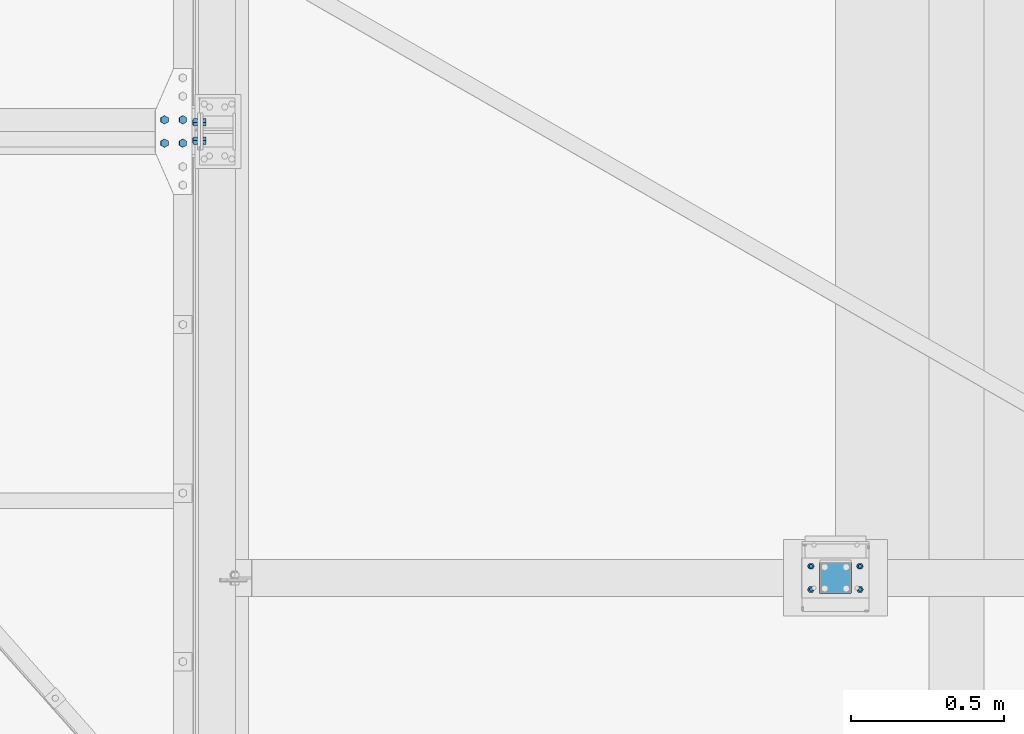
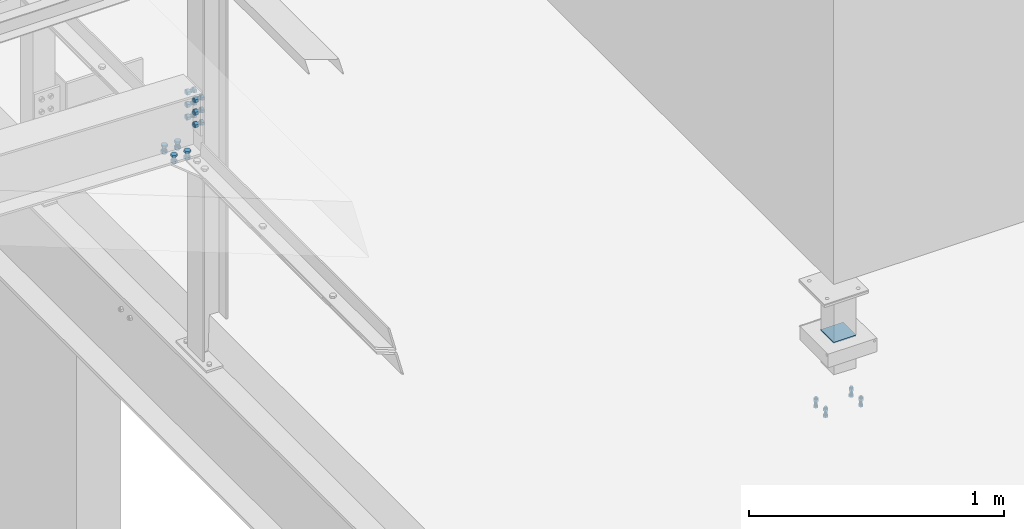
# One storey, part 361 of 3134: 4 mechanical fasteners, 4 elements without a shape of their own.
"""IFC2X3 building model written with IfcOpenShell, lengths in millimetres."""

from ifc_helpers import new_model, si_unit, frame, origin_with_axes, place, context, subcontext, project, spatial, faceted_brep, source, transform, mapped, material, type_object, element, aggregate, save


model = new_model("IFC2X3")

# Units and contexts
model_context = context("Model", 3, precision=1e-05, world=origin_with_axes())
body_context = subcontext(model_context, "Body", "Model", "MODEL_VIEW")
ifc_project = project(units=[si_unit("LENGTHUNIT", "METRE", prefix="MILLI"), si_unit("AREAUNIT", "SQUARE_METRE"), si_unit("VOLUMEUNIT", "CUBIC_METRE"), si_unit("MASSUNIT", "GRAM", prefix="KILO"), si_unit("TIMEUNIT", "SECOND"), si_unit("PLANEANGLEUNIT", "RADIAN"), si_unit("SOLIDANGLEUNIT", "STERADIAN"), si_unit("THERMODYNAMICTEMPERATUREUNIT", "DEGREE_CELSIUS"), si_unit("LUMINOUSINTENSITYUNIT", "LUMEN")], contexts=[model_context])

# Site, building, storey
site_placement = place(None, origin_with_axes())
site = spatial("IfcSite", under=ifc_project, at=site_placement, CompositionType="ELEMENT")
building_placement = place(site_placement, origin_with_axes())
building = spatial("IfcBuilding", under=site, at=building_placement, Name="Undefined", CompositionType="ELEMENT")
storey_placement = place(building_placement, origin_with_axes())
storey = spatial("IfcBuildingStorey", under=building, at=storey_placement, Name="Undefined", CompositionType="ELEMENT", Elevation=0.0)

# Assembly, mechanical fastener
assembly_1_placement = place(storey_placement, origin_with_axes())
assembly_1 = element("IfcElementAssembly", 1, at=assembly_1_placement, inside=storey, Name="PL8", AssemblyPlace="NOTDEFINED", PredefinedType="RIGID_FRAME")
ifc_material_1 = material(Name="8.8")
mechanical_fastener_type = type_object("IfcMechanicalFastenerType", Name="Bolt assembly")
shared_shape_1 = source(origin_with_axes(), body_context, "Body", "Brep", [
    faceted_brep([(13.856406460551, -23.1999997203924, 0.0), (6.92820323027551, -23.1999997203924, 12.0), (-6.92820323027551, -23.1999997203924, 12.0), (-13.856406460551, -23.1999997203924, 1.69692038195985e-15), (-6.92820323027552, -23.1999997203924, -12.0), (6.9282032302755, -23.1999997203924, -12.0), (6.9282032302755, -13.1999997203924, -12.0), (-6.92820323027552, -13.1999997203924, -12.0), (-13.856406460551, -13.1999997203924, 1.69692038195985e-15), (-6.92820323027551, -13.1999997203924, 12.0), (6.92820323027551, -13.1999997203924, 12.0), (13.856406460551, -13.1999997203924, 0.0), (8.0, -13.1999997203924, 0.0), (6.92820323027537, -13.1999997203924, 4.00000000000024), (3.99999999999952, -13.1999997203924, 6.92820323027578), (-8.29068785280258e-13, -13.1999997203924, 8.0), (-4.00000000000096, -13.1999997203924, 6.92820323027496), (-6.9282032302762, -13.1999997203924, 3.99999999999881), (-8.0, -13.1999997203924, -1.65813757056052e-12), (-6.92820323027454, -13.1999997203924, -4.00000000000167), (-3.99999999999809, -13.1999997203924, -6.92820323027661), (2.47832457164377e-12, -13.1999997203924, -8.0), (4.00000000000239, -13.1999997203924, -6.92820323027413), (6.92820323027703, -13.1999997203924, -3.99999999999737), (6.92820323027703, 21.8000002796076, -3.99999999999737), (4.00000000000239, 21.8000002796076, -6.92820323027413), (2.47832457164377e-12, 21.8000002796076, -8.0), (-3.99999999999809, 21.8000002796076, -6.92820323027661), (-6.92820323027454, 21.8000002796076, -4.00000000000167), (-8.0, 21.8000002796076, -1.65813757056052e-12), (-6.9282032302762, 21.8000002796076, 3.99999999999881), (-4.00000000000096, 21.8000002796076, 6.92820323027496), (-8.29068785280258e-13, 21.8000002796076, 8.0), (3.99999999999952, 21.8000002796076, 6.92820323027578), (6.92820323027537, 21.8000002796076, 4.00000000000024), (8.0, 21.8000002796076, 0.0), (13.856406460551, 3.99999999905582, 0.0), (6.92820323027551, 3.99999999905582, 12.0), (-6.92820323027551, 3.99999999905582, 12.0), (-13.856406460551, 3.99999999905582, 1.69692038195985e-15), (-6.92820323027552, 3.99999999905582, -12.0), (6.9282032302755, 3.99999999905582, -12.0), (6.9282032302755, 16.9999999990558, -12.0), (-6.92820323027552, 16.9999999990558, -12.0), (-13.856406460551, 16.9999999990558, 1.69692038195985e-15), (-6.92820323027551, 16.9999999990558, 12.0), (6.92820323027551, 16.9999999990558, 12.0), (13.856406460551, 16.9999999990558, 0.0)], [[[0, 1, 2, 3, 4, 5]], [[6, 7, 8, 9, 10, 11]], [[0, 11, 10, 1]], [[1, 10, 9, 2]], [[2, 9, 8, 3]], [[3, 8, 7, 4]], [[4, 7, 6, 5]], [[5, 6, 11, 0]], [[12, 13, 14, 15, 16, 17, 18, 19, 20, 21, 22, 23]], [[24, 25, 26, 27, 28, 29, 30, 31, 32, 33, 34, 35]], [[12, 35, 34, 13]], [[13, 34, 33, 14]], [[14, 33, 32, 15]], [[15, 32, 31, 16]], [[16, 31, 30, 17]], [[17, 30, 29, 18]], [[18, 29, 28, 19]], [[19, 28, 27, 20]], [[20, 27, 26, 21]], [[21, 26, 25, 22]], [[22, 25, 24, 23]], [[23, 24, 35, 12]], [[36, 37, 38, 39, 40, 41]], [[42, 43, 44, 45, 46, 47]], [[36, 47, 46, 37]], [[37, 46, 45, 38]], [[38, 45, 44, 39]], [[39, 44, 43, 40]], [[40, 43, 42, 41]], [[41, 42, 47, 36]]]),
    faceted_brep([(9.0, -13.0999997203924, 0.0), (7.79422863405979, -13.0999997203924, 4.50000000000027), (4.49999999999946, -13.0999997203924, 7.79422863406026), (-9.3270238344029e-13, -13.0999997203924, 9.0), (-4.50000000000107, -13.0999997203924, 7.79422863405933), (-7.79422863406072, -13.0999997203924, 4.49999999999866), (-9.0, -13.0999997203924, -1.86540476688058e-12), (-7.79422863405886, -13.0999997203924, -4.50000000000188), (-4.49999999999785, -13.0999997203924, -7.79422863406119), (2.78811514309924e-12, -13.0999997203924, -9.0), (4.50000000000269, -13.0999997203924, -7.7942286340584), (7.79422863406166, -13.0999997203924, -4.49999999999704), (7.79422863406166, -3.9, -4.49999999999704), (4.50000000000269, -3.9, -7.7942286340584), (2.78811514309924e-12, -3.9, -9.0), (-4.49999999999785, -3.9, -7.79422863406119), (-7.79422863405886, -3.9, -4.50000000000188), (-9.0, -3.9, -1.86540476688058e-12), (-7.79422863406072, -3.9, 4.49999999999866), (-4.50000000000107, -3.9, 7.79422863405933), (-9.3270238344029e-13, -3.9, 9.0), (4.49999999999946, -3.9, 7.79422863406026), (7.79422863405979, -3.9, 4.50000000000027), (9.0, -3.9, 0.0), (9.0, -4.10000000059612, 0.0), (7.79422863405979, -4.10000000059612, 4.50000000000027), (4.49999999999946, -4.10000000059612, 7.79422863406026), (-9.3270238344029e-13, -4.10000000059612, 9.0), (-4.50000000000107, -4.10000000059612, 7.79422863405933), (-7.79422863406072, -4.10000000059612, 4.49999999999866), (-9.0, -4.10000000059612, -1.86540476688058e-12), (-7.79422863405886, -4.10000000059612, -4.50000000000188), (-4.49999999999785, -4.10000000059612, -7.79422863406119), (2.78811514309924e-12, -4.10000000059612, -9.0), (4.50000000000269, -4.10000000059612, -7.7942286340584), (7.79422863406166, -4.10000000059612, -4.49999999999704), (7.79422863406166, 4.00000375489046, -4.49999999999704), (4.50000000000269, 4.00000375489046, -7.7942286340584), (2.78811514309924e-12, 4.00000375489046, -9.0), (-4.49999999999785, 4.00000375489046, -7.79422863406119), (-7.79422863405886, 4.00000375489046, -4.50000000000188), (-9.0, 4.00000375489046, -1.86540476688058e-12), (-7.79422863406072, 4.00000375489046, 4.49999999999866), (-4.50000000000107, 4.00000375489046, 7.79422863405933), (-9.3270238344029e-13, 4.00000375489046, 9.0), (4.49999999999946, 4.00000375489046, 7.79422863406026), (7.79422863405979, 4.00000375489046, 4.50000000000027), (9.0, 4.00000375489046, 0.0)], [[[0, 1, 2, 3, 4, 5, 6, 7, 8, 9, 10, 11]], [[12, 13, 14, 15, 16, 17, 18, 19, 20, 21, 22, 23]], [[0, 23, 22, 1]], [[1, 22, 21, 2]], [[2, 21, 20, 3]], [[3, 20, 19, 4]], [[4, 19, 18, 5]], [[5, 18, 17, 6]], [[6, 17, 16, 7]], [[7, 16, 15, 8]], [[8, 15, 14, 9]], [[9, 14, 13, 10]], [[10, 13, 12, 11]], [[11, 12, 23, 0]], [[24, 25, 26, 27, 28, 29, 30, 31, 32, 33, 34, 35]], [[36, 37, 38, 39, 40, 41, 42, 43, 44, 45, 46, 47]], [[24, 47, 46, 25]], [[25, 46, 45, 26]], [[26, 45, 44, 27]], [[27, 44, 43, 28]], [[28, 43, 42, 29]], [[29, 42, 41, 30]], [[30, 41, 40, 31]], [[31, 40, 39, 32]], [[32, 39, 38, 33]], [[33, 38, 37, 34]], [[34, 37, 36, 35]], [[35, 36, 47, 24]]]),
])
mechanical_fastener_1_placement = place(assembly_1_placement, frame((71670.069621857, 17051.9999999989, 5011.13330296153), z_axis=(-0.999519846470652, 0.0, 0.0309851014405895), x_axis=(0.0, 1.0, 0.0)))
mechanical_fastener_1 = element("IfcMechanicalFastener", 2, at=mechanical_fastener_1_placement, type_object=mechanical_fastener_type, material=ifc_material_1, Name="Bolt assembly", NominalDiameter=16.0, NominalLength=35.0, context=body_context, shape_type="MappedRepresentation", body=[
    mapped(shared_shape_1, transform((0.0, 4.54747350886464e-13, -30.0000000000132))),
    mapped(shared_shape_1, transform((76.0, -2.00088834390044e-10, -29.9999999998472))),
    mapped(shared_shape_1, transform((0.0, 4.54747350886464e-13, 30.0000000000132))),
    mapped(shared_shape_1, transform((76.0, 1.98269844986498e-10, 29.9999999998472))),
])
aggregate(assembly_1, [mechanical_fastener_1])

assembly_2_placement = place(storey_placement, origin_with_axes())
assembly_2 = element("IfcElementAssembly", 3, at=assembly_2_placement, inside=storey, AssemblyPlace="NOTDEFINED", PredefinedType="RIGID_FRAME")
ifc_material_2 = material(Name="6.8")
shared_shape_2 = source(origin_with_axes(), body_context, "Body", "Brep", [
    faceted_brep([(51.5, 1.36424205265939e-12, 50.0), (51.3858192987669, 1.36424205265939e-12, 50.5740251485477), (51.0606601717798, 1.36424205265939e-12, 51.0606601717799), (50.5740251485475, 1.36424205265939e-12, 51.385819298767), (-50.0000000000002, 1.36424205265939e-12, 51.5), (-50.7500000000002, 1.36424205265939e-12, 51.2990381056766), (-51.2990381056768, 1.36424205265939e-12, 50.7499999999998), (-51.5, 1.36424205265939e-12, 49.9999999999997), (-51.5, 1.36424205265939e-12, -50.0000000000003), (-51.2990381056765, 1.36424205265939e-12, -50.7500000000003), (-50.7499999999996, 1.36424205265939e-12, -51.2990381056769), (-49.9999999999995, 1.36424205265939e-12, -51.5), (50.0000000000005, 1.36424205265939e-12, -51.5), (50.7500000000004, 1.36424205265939e-12, -51.2990381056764), (51.2990381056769, 1.36424205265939e-12, -50.7499999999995), (51.5, 1.36424205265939e-12, -49.9999999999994), (51.5, 5.10000000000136, -49.9999999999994), (51.2990381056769, 5.10000000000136, -50.7499999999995), (50.7500000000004, 5.10000000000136, -51.2990381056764), (50.0000000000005, 5.10000000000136, -51.5), (-49.9999999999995, 5.10000000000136, -51.5), (-50.7499999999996, 5.10000000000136, -51.2990381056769), (-51.2990381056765, 5.10000000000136, -50.7500000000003), (-51.5, 5.10000000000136, -50.0000000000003), (-51.5, 5.10000000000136, 49.9999999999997), (-51.2990381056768, 5.10000000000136, 50.7499999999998), (-50.7500000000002, 5.10000000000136, 51.2990381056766), (-50.0000000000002, 5.10000000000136, 51.5), (50.5740251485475, 5.10000000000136, 51.385819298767), (51.0606601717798, 5.10000000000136, 51.0606601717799), (51.3858192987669, 5.10000000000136, 50.5740251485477), (51.5, 5.10000000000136, 50.0)], [[[0, 1, 2, 3, 4, 5, 6, 7, 8, 9, 10, 11, 12, 13, 14, 15]], [[16, 17, 18, 19, 20, 21, 22, 23, 24, 25, 26, 27, 28, 29, 30, 31]], [[0, 31, 30, 1]], [[1, 30, 29, 2]], [[2, 29, 28, 3]], [[3, 28, 27, 4]], [[4, 27, 26, 5]], [[5, 26, 25, 6]], [[6, 25, 24, 7]], [[7, 24, 23, 8]], [[8, 23, 22, 9]], [[9, 22, 21, 10]], [[10, 21, 20, 11]], [[11, 20, 19, 12]], [[12, 19, 18, 13]], [[13, 18, 17, 14]], [[14, 17, 16, 15]], [[15, 16, 31, 0]]]),
])
mechanical_fastener_2_placement = place(assembly_2_placement, frame((73830.0, 15633.33, 4274.22), z_axis=(0.0, -1.0, 0.0), x_axis=(-1.0, 0.0, 0.0)))
mechanical_fastener_2 = element("IfcMechanicalFastener", 4, at=mechanical_fastener_2_placement, type_object=mechanical_fastener_type, material=ifc_material_2, Name="Bolt assembly", NominalDiameter=10.0, NominalLength=5.0, context=body_context, shape_type="MappedRepresentation", body=[
    mapped(shared_shape_2, transform((0.0, 0.0, 0.0))),
])
aggregate(assembly_2, [mechanical_fastener_2])

assembly_3_placement = place(storey_placement, origin_with_axes())
assembly_3 = element("IfcElementAssembly", 5, at=assembly_3_placement, inside=storey, Name="HEA120", AssemblyPlace="NOTDEFINED", PredefinedType="RIGID_FRAME")
shared_shape_3 = source(origin_with_axes(), body_context, "Body", "Brep", [
    faceted_brep([(13.856406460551, -18.0, 0.0), (6.92820323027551, -18.0, 12.0), (-6.92820323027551, -18.0, 12.0), (-13.856406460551, -18.0, 1.69692038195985e-15), (-6.92820323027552, -18.0, -12.0), (6.9282032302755, -18.0, -12.0), (6.9282032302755, -7.99999766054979, -12.0), (-6.92820323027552, -7.99999766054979, -12.0), (-13.856406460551, -7.99999766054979, 1.69692038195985e-15), (-6.92820323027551, -7.99999766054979, 12.0), (6.92820323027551, -7.99999766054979, 12.0), (13.856406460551, -7.99999766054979, 0.0), (8.0, -8.0, 0.0), (6.92820323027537, -8.0, 4.00000000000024), (3.99999999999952, -8.0, 6.92820323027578), (-8.29068785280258e-13, -8.0, 8.0), (-4.00000000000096, -8.0, 6.92820323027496), (-6.9282032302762, -8.0, 3.99999999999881), (-8.0, -8.0, -1.65813757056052e-12), (-6.92820323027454, -8.0, -4.00000000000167), (-3.99999999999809, -8.0, -6.92820323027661), (2.47832457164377e-12, -8.0, -8.0), (4.00000000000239, -8.0, -6.92820323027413), (6.92820323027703, -8.0, -3.99999999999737), (6.92820323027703, 27.0, -3.99999999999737), (4.00000000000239, 27.0, -6.92820323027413), (2.47832457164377e-12, 27.0, -8.0), (-3.99999999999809, 27.0, -6.92820323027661), (-6.92820323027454, 27.0, -4.00000000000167), (-8.0, 27.0, -1.65813757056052e-12), (-6.9282032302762, 27.0, 3.99999999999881), (-4.00000000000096, 27.0, 6.92820323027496), (-8.29068785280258e-13, 27.0, 8.0), (3.99999999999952, 27.0, 6.92820323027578), (6.92820323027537, 27.0, 4.00000000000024), (8.0, 27.0, 0.0), (13.856406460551, 9.99999995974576, 0.0), (6.92820323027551, 9.99999995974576, 12.0), (-6.92820323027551, 9.99999995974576, 12.0), (-13.856406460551, 9.99999995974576, 1.69692038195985e-15), (-6.92820323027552, 9.99999995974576, -12.0), (6.9282032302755, 9.99999995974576, -12.0), (6.9282032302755, 22.9999913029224, -12.0), (-6.92820323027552, 22.9999913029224, -12.0), (-13.856406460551, 22.9999913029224, 1.69692038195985e-15), (-6.92820323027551, 22.9999913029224, 12.0), (6.92820323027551, 22.9999913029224, 12.0), (13.856406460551, 22.9999913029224, 0.0)], [[[0, 1, 2, 3, 4, 5]], [[6, 7, 8, 9, 10, 11]], [[0, 11, 10, 1]], [[1, 10, 9, 2]], [[2, 9, 8, 3]], [[3, 8, 7, 4]], [[4, 7, 6, 5]], [[5, 6, 11, 0]], [[12, 13, 14, 15, 16, 17, 18, 19, 20, 21, 22, 23]], [[24, 25, 26, 27, 28, 29, 30, 31, 32, 33, 34, 35]], [[12, 35, 34, 13]], [[13, 34, 33, 14]], [[14, 33, 32, 15]], [[15, 32, 31, 16]], [[16, 31, 30, 17]], [[17, 30, 29, 18]], [[18, 29, 28, 19]], [[19, 28, 27, 20]], [[20, 27, 26, 21]], [[21, 26, 25, 22]], [[22, 25, 24, 23]], [[23, 24, 35, 12]], [[36, 37, 38, 39, 40, 41]], [[42, 43, 44, 45, 46, 47]], [[36, 47, 46, 37]], [[37, 46, 45, 38]], [[38, 45, 44, 39]], [[39, 44, 43, 40]], [[40, 43, 42, 41]], [[41, 42, 47, 36]]]),
    faceted_brep([(9.0, -0.1, 0.0), (7.79422863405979, -0.1, 4.50000000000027), (4.49999999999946, -0.1, 7.79422863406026), (-9.3270238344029e-13, -0.1, 9.0), (-4.50000000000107, -0.1, 7.79422863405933), (-7.79422863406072, -0.1, 4.49999999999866), (-9.0, -0.1, -1.86540476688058e-12), (-7.79422863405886, -0.1, -4.50000000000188), (-4.49999999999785, -0.1, -7.79422863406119), (2.78811514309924e-12, -0.1, -9.0), (4.50000000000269, -0.1, -7.7942286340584), (7.79422863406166, -0.1, -4.49999999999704), (7.79422863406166, 9.99999995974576, -4.49999999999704), (4.50000000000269, 9.99999995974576, -7.7942286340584), (2.78811514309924e-12, 9.99999995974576, -9.0), (-4.49999999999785, 9.99999995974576, -7.79422863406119), (-7.79422863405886, 9.99999995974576, -4.50000000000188), (-9.0, 9.99999995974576, -1.86540476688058e-12), (-7.79422863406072, 9.99999995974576, 4.49999999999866), (-4.50000000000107, 9.99999995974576, 7.79422863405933), (-9.3270238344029e-13, 9.99999995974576, 9.0), (4.49999999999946, 9.99999995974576, 7.79422863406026), (7.79422863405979, 9.99999995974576, 4.50000000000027), (9.0, 9.99999995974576, 0.0), (9.0, -7.9, 0.0), (7.79422863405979, -7.9, 4.50000000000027), (4.49999999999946, -7.9, 7.79422863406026), (-9.3270238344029e-13, -7.9, 9.0), (-4.50000000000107, -7.9, 7.79422863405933), (-7.79422863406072, -7.9, 4.49999999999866), (-9.0, -7.9, -1.86540476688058e-12), (-7.79422863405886, -7.9, -4.50000000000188), (-4.49999999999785, -7.9, -7.79422863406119), (2.78811514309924e-12, -7.9, -9.0), (4.50000000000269, -7.9, -7.7942286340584), (7.79422863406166, -7.9, -4.49999999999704), (7.79422863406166, 0.100000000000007, -4.49999999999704), (4.50000000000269, 0.100000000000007, -7.7942286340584), (2.78811514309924e-12, 0.100000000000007, -9.0), (-4.49999999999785, 0.100000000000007, -7.79422863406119), (-7.79422863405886, 0.100000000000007, -4.50000000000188), (-9.0, 0.100000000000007, -1.86540476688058e-12), (-7.79422863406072, 0.100000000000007, 4.49999999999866), (-4.50000000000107, 0.100000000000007, 7.79422863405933), (-9.3270238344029e-13, 0.100000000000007, 9.0), (4.49999999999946, 0.100000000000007, 7.79422863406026), (7.79422863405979, 0.100000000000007, 4.50000000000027), (9.0, 0.100000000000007, 0.0)], [[[0, 1, 2, 3, 4, 5, 6, 7, 8, 9, 10, 11]], [[12, 13, 14, 15, 16, 17, 18, 19, 20, 21, 22, 23]], [[0, 23, 22, 1]], [[1, 22, 21, 2]], [[2, 21, 20, 3]], [[3, 20, 19, 4]], [[4, 19, 18, 5]], [[5, 18, 17, 6]], [[6, 17, 16, 7]], [[7, 16, 15, 8]], [[8, 15, 14, 9]], [[9, 14, 13, 10]], [[10, 13, 12, 11]], [[11, 12, 23, 0]], [[24, 25, 26, 27, 28, 29, 30, 31, 32, 33, 34, 35]], [[36, 37, 38, 39, 40, 41, 42, 43, 44, 45, 46, 47]], [[24, 47, 46, 25]], [[25, 46, 45, 26]], [[26, 45, 44, 27]], [[27, 44, 43, 28]], [[28, 43, 42, 29]], [[29, 42, 41, 30]], [[30, 41, 40, 31]], [[31, 40, 39, 32]], [[32, 39, 38, 33]], [[33, 38, 37, 34]], [[34, 37, 36, 35]], [[35, 36, 47, 24]]]),
])
mechanical_fastener_3_placement = place(assembly_3_placement, frame((71758.0000000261, 17090.0, 5254.8605303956), z_axis=(0.0, 1.0, 0.0), x_axis=(0.0, 0.0, -1.0)))
mechanical_fastener_3 = element("IfcMechanicalFastener", 6, at=mechanical_fastener_3_placement, type_object=mechanical_fastener_type, material=ifc_material_1, Name="Bolt assembly", NominalDiameter=16.0, NominalLength=35.0, context=body_context, shape_type="MappedRepresentation", body=[
    mapped(shared_shape_3, transform((0.0, 4.54747350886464e-13, -30.0000000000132))),
    mapped(shared_shape_3, transform((60.0, 0.0, -30.0))),
    mapped(shared_shape_3, transform((120.0, 0.0, -30.0))),
    mapped(shared_shape_3, transform((0.0, 4.54747350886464e-13, 30.0000000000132))),
    mapped(shared_shape_3, transform((60.0, 0.0, 30.0))),
    mapped(shared_shape_3, transform((120.0, 0.0, 30.0))),
])
aggregate(assembly_3, [mechanical_fastener_3])

assembly_4_placement = place(storey_placement, origin_with_axes())
assembly_4 = element("IfcElementAssembly", 7, at=assembly_4_placement, inside=storey, AssemblyPlace="NOTDEFINED", PredefinedType="RIGID_FRAME")
shared_shape_4 = source(origin_with_axes(), body_context, "Body", "Brep", [
    faceted_brep([(10.9696551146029, -29.8000001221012, 0.0), (5.48482755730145, -29.8000001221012, 9.5), (-5.48482755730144, -29.8000001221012, 9.5), (-10.9696551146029, -29.8000001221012, 1.34339530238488e-15), (-5.48482755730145, -29.8000001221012, -9.5), (5.48482755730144, -29.8000001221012, -9.50000000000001), (5.48482755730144, -21.8000001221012, -9.50000000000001), (-5.48482755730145, -21.8000001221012, -9.5), (-10.9696551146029, -21.8000001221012, 1.34339530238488e-15), (-5.48482755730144, -21.8000001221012, 9.5), (5.48482755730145, -21.8000001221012, 9.5), (10.9696551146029, -21.8000001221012, 0.0), (6.0, -21.8000001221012, 0.0), (5.19615242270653, -21.8000001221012, 3.00000000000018), (2.99999999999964, -21.8000001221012, 5.19615242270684), (-6.21801588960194e-13, -21.8000001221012, 6.0), (-3.00000000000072, -21.8000001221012, 5.19615242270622), (-5.19615242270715, -21.8000001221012, 2.9999999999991), (-6.0, -21.8000001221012, -1.24360317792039e-12), (-5.19615242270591, -21.8000001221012, -3.00000000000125), (-2.99999999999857, -21.8000001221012, -5.19615242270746), (1.85874342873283e-12, -21.8000001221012, -6.0), (3.00000000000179, -21.8000001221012, -5.1961524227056), (5.19615242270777, -21.8000001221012, -2.99999999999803), (5.19615242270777, 18.1999998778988, -2.99999999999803), (3.00000000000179, 18.1999998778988, -5.1961524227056), (1.85874342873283e-12, 18.1999998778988, -6.0), (-2.99999999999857, 18.1999998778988, -5.19615242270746), (-5.19615242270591, 18.1999998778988, -3.00000000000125), (-6.0, 18.1999998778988, -1.24360317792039e-12), (-5.19615242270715, 18.1999998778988, 2.9999999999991), (-3.00000000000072, 18.1999998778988, 5.19615242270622), (-6.21801588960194e-13, 18.1999998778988, 6.0), (2.99999999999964, 18.1999998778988, 5.19615242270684), (5.19615242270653, 18.1999998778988, 3.00000000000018), (6.0, 18.1999998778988, 0.0), (10.9696551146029, 0.0, 0.0), (5.48482755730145, 0.0, 9.5), (-5.48482755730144, 0.0, 9.5), (-10.9696551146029, 0.0, 1.34339530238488e-15), (-5.48482755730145, 0.0, -9.5), (5.48482755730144, 0.0, -9.50000000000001), (5.48482755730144, 10.0, -9.50000000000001), (-5.48482755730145, 10.0, -9.5), (-10.9696551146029, 10.0, 1.34339530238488e-15), (-5.48482755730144, 10.0, 9.5), (5.48482755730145, 10.0, 9.5), (10.9696551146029, 10.0, 0.0)], [[[0, 1, 2, 3, 4, 5]], [[6, 7, 8, 9, 10, 11]], [[0, 11, 10, 1]], [[1, 10, 9, 2]], [[2, 9, 8, 3]], [[3, 8, 7, 4]], [[4, 7, 6, 5]], [[5, 6, 11, 0]], [[12, 13, 14, 15, 16, 17, 18, 19, 20, 21, 22, 23]], [[24, 25, 26, 27, 28, 29, 30, 31, 32, 33, 34, 35]], [[12, 35, 34, 13]], [[13, 34, 33, 14]], [[14, 33, 32, 15]], [[15, 32, 31, 16]], [[16, 31, 30, 17]], [[17, 30, 29, 18]], [[18, 29, 28, 19]], [[19, 28, 27, 20]], [[20, 27, 26, 21]], [[21, 26, 25, 22]], [[22, 25, 24, 23]], [[23, 24, 35, 12]], [[36, 37, 38, 39, 40, 41]], [[42, 43, 44, 45, 46, 47]], [[36, 47, 46, 37]], [[37, 46, 45, 38]], [[38, 45, 44, 39]], [[39, 44, 43, 40]], [[40, 43, 42, 41]], [[41, 42, 47, 36]]]),
    faceted_brep([(7.0, -10.0999999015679, 0.0), (6.06217782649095, -10.0999999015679, 3.50000000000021), (3.49999999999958, -10.0999999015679, 6.06217782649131), (-7.25435187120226e-13, -10.0999999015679, 7.0), (-3.50000000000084, -10.0999999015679, 6.06217782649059), (-6.06217782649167, -10.0999999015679, 3.49999999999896), (-7.0, -10.0999999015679, -1.45087037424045e-12), (-6.06217782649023, -10.0999999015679, -3.50000000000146), (-3.49999999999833, -10.0999999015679, -6.06217782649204), (2.1685340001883e-12, -10.0999999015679, -7.0), (3.50000000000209, -10.0999999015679, -6.06217782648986), (6.0621778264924, -10.0999999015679, -3.4999999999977), (6.0621778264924, 0.0, -3.4999999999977), (3.50000000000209, 0.0, -6.06217782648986), (2.1685340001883e-12, 0.0, -7.0), (-3.49999999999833, 0.0, -6.06217782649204), (-6.06217782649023, 0.0, -3.50000000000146), (-7.0, 0.0, -1.45087037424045e-12), (-6.06217782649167, 0.0, 3.49999999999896), (-3.50000000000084, 0.0, 6.06217782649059), (-7.25435187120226e-13, 0.0, 7.0), (3.49999999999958, 0.0, 6.06217782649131), (6.06217782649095, 0.0, 3.50000000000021), (7.0, 0.0, 0.0), (7.0, -11.9999999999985, 0.0), (6.06217782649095, -11.9999999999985, 3.50000000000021), (3.49999999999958, -11.9999999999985, 6.06217782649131), (-7.25435187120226e-13, -11.9999999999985, 7.0), (-3.50000000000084, -11.9999999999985, 6.06217782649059), (-6.06217782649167, -11.9999999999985, 3.49999999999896), (-7.0, -11.9999999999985, -1.45087037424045e-12), (-6.06217782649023, -11.9999999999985, -3.50000000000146), (-3.49999999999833, -11.9999999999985, -6.06217782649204), (2.1685340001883e-12, -11.9999999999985, -7.0), (3.50000000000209, -11.9999999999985, -6.06217782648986), (6.0621778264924, -11.9999999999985, -3.4999999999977), (6.0621778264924, -10.0, -3.4999999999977), (3.50000000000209, -10.0, -6.06217782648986), (2.1685340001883e-12, -10.0, -7.0), (-3.49999999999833, -10.0, -6.06217782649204), (-6.06217782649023, -10.0, -3.50000000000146), (-7.0, -10.0, -1.45087037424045e-12), (-6.06217782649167, -10.0, 3.49999999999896), (-3.50000000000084, -10.0, 6.06217782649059), (-7.25435187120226e-13, -10.0, 7.0), (3.49999999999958, -10.0, 6.06217782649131), (6.06217782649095, -10.0, 3.50000000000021), (7.0, -10.0, 0.0), (7.0, -21.7000001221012, 0.0), (6.06217782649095, -21.7000001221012, 3.50000000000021), (3.49999999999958, -21.7000001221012, 6.06217782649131), (-7.25435187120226e-13, -21.7000001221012, 7.0), (-3.50000000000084, -21.7000001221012, 6.06217782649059), (-6.06217782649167, -21.7000001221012, 3.49999999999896), (-7.0, -21.7000001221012, -1.45087037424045e-12), (-6.06217782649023, -21.7000001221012, -3.50000000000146), (-3.49999999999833, -21.7000001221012, -6.06217782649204), (2.1685340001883e-12, -21.7000001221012, -7.0), (3.50000000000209, -21.7000001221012, -6.06217782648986), (6.0621778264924, -21.7000001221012, -3.4999999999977), (6.0621778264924, -11.9, -3.4999999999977), (3.50000000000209, -11.9, -6.06217782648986), (2.1685340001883e-12, -11.9, -7.0), (-3.49999999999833, -11.9, -6.06217782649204), (-6.06217782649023, -11.9, -3.50000000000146), (-7.0, -11.9, -1.45087037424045e-12), (-6.06217782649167, -11.9, 3.49999999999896), (-3.50000000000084, -11.9, 6.06217782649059), (-7.25435187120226e-13, -11.9, 7.0), (3.49999999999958, -11.9, 6.06217782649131), (6.06217782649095, -11.9, 3.50000000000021), (7.0, -11.9, 0.0)], [[[0, 1, 2, 3, 4, 5, 6, 7, 8, 9, 10, 11]], [[12, 13, 14, 15, 16, 17, 18, 19, 20, 21, 22, 23]], [[0, 23, 22, 1]], [[1, 22, 21, 2]], [[2, 21, 20, 3]], [[3, 20, 19, 4]], [[4, 19, 18, 5]], [[5, 18, 17, 6]], [[6, 17, 16, 7]], [[7, 16, 15, 8]], [[8, 15, 14, 9]], [[9, 14, 13, 10]], [[10, 13, 12, 11]], [[11, 12, 23, 0]], [[24, 25, 26, 27, 28, 29, 30, 31, 32, 33, 34, 35]], [[36, 37, 38, 39, 40, 41, 42, 43, 44, 45, 46, 47]], [[24, 47, 46, 25]], [[25, 46, 45, 26]], [[26, 45, 44, 27]], [[27, 44, 43, 28]], [[28, 43, 42, 29]], [[29, 42, 41, 30]], [[30, 41, 40, 31]], [[31, 40, 39, 32]], [[32, 39, 38, 33]], [[33, 38, 37, 34]], [[34, 37, 36, 35]], [[35, 36, 47, 24]], [[48, 49, 50, 51, 52, 53, 54, 55, 56, 57, 58, 59]], [[60, 61, 62, 63, 64, 65, 66, 67, 68, 69, 70, 71]], [[48, 71, 70, 49]], [[49, 70, 69, 50]], [[50, 69, 68, 51]], [[51, 68, 67, 52]], [[52, 67, 66, 53]], [[53, 66, 65, 54]], [[54, 65, 64, 55]], [[55, 64, 63, 56]], [[56, 63, 62, 57]], [[57, 62, 61, 58]], [[58, 61, 60, 59]], [[59, 60, 71, 48]]]),
])
mechanical_fastener_4_placement = place(assembly_4_placement, frame((73750.0384122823, 15633.33, 3952.01960054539), z_axis=(0.0, -1.0, 0.0), x_axis=(0.999519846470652, 0.0, -0.0309851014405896)))
mechanical_fastener_4 = element("IfcMechanicalFastener", 8, at=mechanical_fastener_4_placement, type_object=mechanical_fastener_type, material=ifc_material_1, Name="Bolt assembly", NominalDiameter=12.0, NominalLength=40.0, context=body_context, shape_type="MappedRepresentation", body=[
    mapped(shared_shape_4, transform((0.0, 0.0, -38.0))),
    mapped(shared_shape_4, transform((159.99999999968, -2.71938915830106e-10, -38.0))),
    mapped(shared_shape_4, transform((0.0, 0.0, 38.0))),
    mapped(shared_shape_4, transform((159.99999999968, -2.71938915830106e-10, 38.0))),
])
aggregate(assembly_4, [mechanical_fastener_4])

save(model, "model.ifc")
